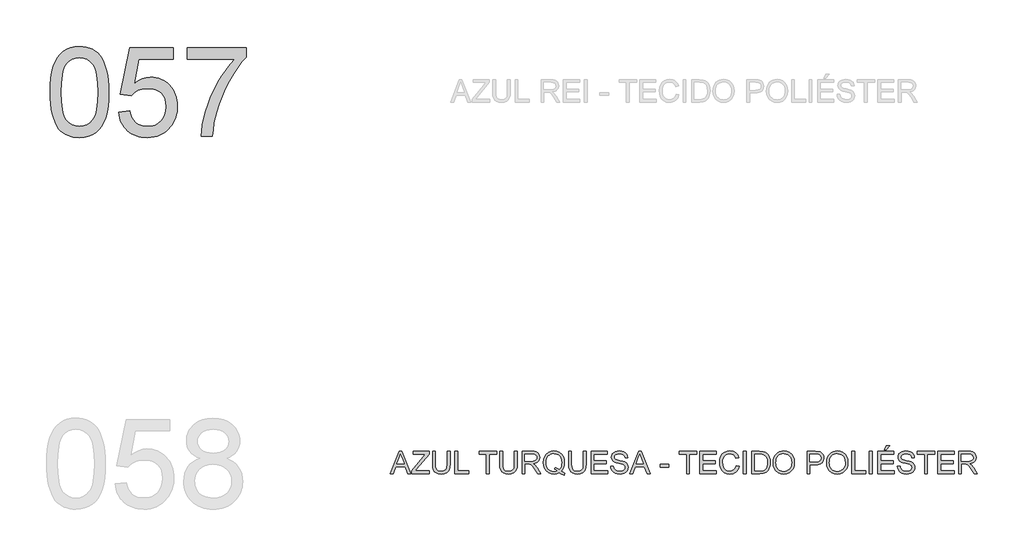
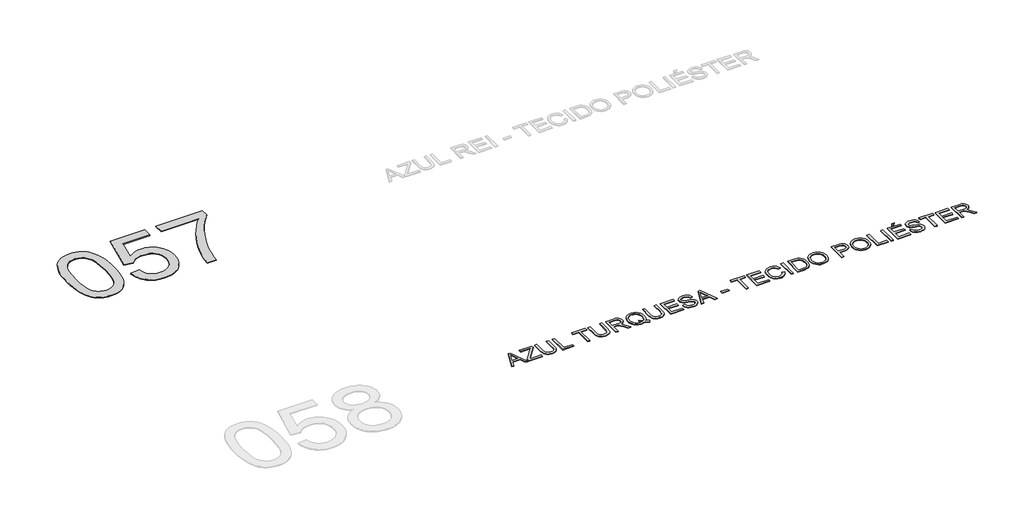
# One storey, part 18 of 39: 2 proxies.
"""IFC4 building model written with IfcOpenShell, lengths in millimetres."""

from ifc_helpers import new_model, si_unit, origin, origin_with_axes, place, context, project, spatial, polyline, outline, extrude, element, save

model = new_model("IFC4")

# Units and contexts
model_context = context("Model", 3, world=origin())
ifc_project = project(units=[si_unit("LENGTHUNIT", "METRE", prefix="MILLI")], contexts=[model_context])

# Site, building, storey
site = spatial("IfcSite", under=ifc_project)
building = spatial("IfcBuilding", under=site)
storey = spatial("IfcBuildingStorey", under=building, Name="Marelli - Linha PROFIT - Planta Baixa", Elevation=0.0)

# Proxies
placement = place(None, origin())
element("IfcBuildingElementProxy", 1, Name="1200mm Arial", ObjectType="1200mm Arial", at=placement, inside=storey, context=model_context, shape_type="SweptSolid", body=[
    extrude(outline(polyline([(-25134.0424838, -64395.792664), (-25131.2741718, -64294.4319773), (-25122.9692358, -64202.8385576), (-25109.1276757, -64121.0124048), (-25089.7494916, -64048.953519), (-25064.9174569, -63986.073289), (-25034.7143451, -63931.7831035), (-24999.1401562, -63886.0829627), (-24958.1948901, -63848.9728664), (-24911.7405912, -63820.2596767), (-24859.6393036, -63799.7502555), (-24801.8910274, -63787.4446027), (-24738.4957626, -63783.3427185), (-24690.8550442, -63785.7707396), (-24645.642347, -63793.0548031), (-24602.857671, -63805.194909), (-24562.5010161, -63822.1910572), (-24525.5472697, -63843.7581391), (-24492.971319, -63869.6110463), (-24464.7731641, -63899.7497788), (-24440.9528049, -63934.1743365), (-24420.314625, -63972.7467637), (-24401.6630078, -64015.3291046), (-24370.3194618, -64112.5235278), (-24358.3449029, -64169.6831928), (-24349.7916465, -64235.9479371), (-24344.6596927, -64311.3177609), (-24342.9490414, -64395.792664), (-24345.6897623, -64496.5095573), (-24353.9119248, -64587.6431245), (-24367.6155292, -64669.1933658), (-24386.8005752, -64741.1602811), (-24411.4394718, -64804.0681023), (-24441.5046279, -64858.4410612), (-24476.9960434, -64904.2791578), (-24517.9137183, -64941.5823921), (-24564.4231995, -64970.4887199), (-24616.690034, -64991.1360968), (-24674.7142217, -65003.524523), (-24738.4957626, -65007.6539984), (-24781.170074, -65005.8605737), (-24821.4899407, -65000.4802995), (-24859.4553626, -64991.5131759), (-24895.0663398, -64978.9592028), (-24928.3228721, -64962.8183803), (-24959.2249597, -64943.0907083), (-24987.7726025, -64919.7761868), (-25013.9658006, -64892.8748159), (-25042.1087732, -64850.2786794), (-25066.4993495, -64802.0999336), (-25087.1375294, -64748.3385785), (-25104.023313, -64688.9946142), (-25117.1567002, -64624.0680406), (-25126.5376911, -64553.5588577), (-25132.1662856, -64477.4670655), (-25134.0424838, -64395.792664)]), holes=[polyline([(-24983.3580186, -64395.4983584), (-24978.9434347, -64526.4919399), (-24965.6996828, -64632.5247279), (-24955.766869, -64676.1808245), (-24943.6267631, -64713.5967226), (-24929.2793653, -64744.7724225), (-24912.7246755, -64769.7079239), (-24875.3478648, -64807.884878), (-24833.8507758, -64835.1541309), (-24788.2334084, -64851.5156826), (-24738.4957626, -64856.9695332), (-24688.7581169, -64851.4972885), (-24643.1407495, -64835.0805545), (-24601.6436604, -64807.7193311), (-24564.2668497, -64769.4136183), (-24547.7121599, -64744.418336), (-24533.3647621, -64713.2104465), (-24521.2246563, -64675.7899498), (-24511.2918424, -64632.1568459), (-24498.0480906, -64526.2528166), (-24493.6335066, -64395.4983584), (-24497.9009378, -64267.9720648), (-24510.7032312, -64163.8062779), (-24520.3049513, -64120.4835744), (-24532.0403869, -64083.0009976), (-24545.9095381, -64051.3585475), (-24561.9124049, -64025.5562241), (-24598.6638162, -63985.5122689), (-24640.6391519, -63956.9094438), (-24687.8384119, -63939.7477487), (-24740.2615962, -63934.0271837), (-24789.7417245, -63939.067167), (-24834.5865397, -63954.187117), (-24874.7960418, -63979.3870337), (-24910.3702308, -64014.666917), (-24927.4767435, -64043.2145599), (-24942.3023879, -64077.2068562), (-24954.847164, -64116.6438061), (-24965.1110716, -64161.5254095), (-24978.7962819, -64267.6225769), (-24983.3580186, -64395.4983584)])]), origin_with_axes(), (0.0, 0.0, 1.0), 10.0),
    extrude(outline(polyline([(-24211.1001343, -64668.6139517), (-24060.4156691, -64649.7783935), (-24049.15848, -64698.2192552), (-24032.7509431, -64740.2405761), (-24011.1930581, -64775.8423562), (-23984.4848253, -64805.0245955), (-23952.6814268, -64827.7505057), (-23915.838045, -64843.9832988), (-23873.9546798, -64853.7229746), (-23827.0313314, -64856.9695332), (-23769.6417401, -64852.4537817), (-23719.0211776, -64838.9065272), (-23675.1696437, -64816.3277698), (-23638.0871386, -64784.7175093), (-23608.6013967, -64745.6392444), (-23587.5401525, -64700.6564734), (-23574.903406, -64649.7691965), (-23570.6911571, -64592.9774135), (-23574.6366915, -64539.3034304), (-23586.4732947, -64491.5891356), (-23606.2009667, -64449.8345291), (-23633.8197075, -64414.039611), (-23669.4214876, -64385.3264213), (-23713.0982775, -64364.817), (-23764.8500771, -64352.5113473), (-23824.6768866, -64348.4094631), (-23862.9642052, -64350.0465379), (-23897.775039, -64354.9577626), (-23929.109388, -64363.143137), (-23956.9672521, -64374.6026611), (-24004.2400884, -64404.6954083), (-24041.5801109, -64442.5872538), (-24192.2645762, -64423.7516957), (-24060.4156691, -63802.1782766), (-23476.5133664, -63802.1782766), (-23476.5133664, -63952.8627418), (-23938.5731523, -63952.8627418), (-24003.0260778, -64284.8394543), (-23949.8487354, -64246.7268796), (-23895.3838061, -64219.503612), (-23839.6312897, -64203.1696514), (-23782.5911863, -64197.7249978), (-23745.1522955, -64199.4126565), (-23709.2079254, -64204.4756324), (-23674.7580758, -64212.9139257), (-23641.8027468, -64224.7275363), (-23610.3419384, -64239.9164642), (-23580.3756506, -64258.4807093), (-23551.9038835, -64280.4202718), (-23524.9266369, -64305.7351516), (-23500.3360248, -64333.7033803), (-23479.024161, -64363.6029895), (-23460.9910454, -64395.4339791), (-23446.2366781, -64429.1963492), (-23434.7610592, -64464.8900998), (-23426.5641885, -64502.5152308), (-23421.646066, -64542.0717424), (-23420.0066919, -64583.5596344), (-23425.9111979, -64661.6241938), (-23433.2918304, -64698.6147284), (-23443.624716, -64734.2440996), (-23456.9098545, -64768.5123075), (-23473.1472461, -64801.4193519), (-23492.3368907, -64832.965233), (-23514.4787883, -64863.1499507), (-23544.479565, -64897.0180869), (-23577.0923038, -64926.3704716), (-23612.3170049, -64951.2071048), (-23650.1536681, -64971.5279865), (-23690.6022934, -64987.3331167), (-23733.662881, -64998.6224954), (-23779.3354307, -65005.3961227), (-23827.6199425, -65007.6539984), (-23905.3809993, -65001.8506599), (-23941.4403326, -64994.5964869), (-23975.6188692, -64984.4406445), (-24007.9166091, -64971.383133), (-24038.3335523, -64955.4239522), (-24066.8696989, -64936.5631021), (-24093.5250487, -64914.8005828), (-24117.8627419, -64890.6422321), (-24139.4459187, -64864.5938875), (-24158.2745791, -64836.6555493), (-24174.348723, -64806.8272173), (-24187.6683505, -64775.1088915), (-24198.2334615, -64741.500572), (-24211.1001343, -64668.6139517)])), origin_with_axes(), (0.0, 0.0, 1.0), 10.0),
    extrude(outline(polyline([(-23288.1577848, -63952.8627418), (-23288.1577848, -63802.1782766), (-22497.0643424, -63802.1782766), (-22497.0643424, -63924.0207934), (-22553.5802139, -63990.5246611), (-22609.8201739, -64066.7222194), (-22665.7842224, -64152.6134682), (-22721.4723595, -64248.1984076), (-22773.8679526, -64349.3383651), (-22819.9543696, -64451.8946683), (-22859.7316103, -64555.8673172), (-22893.1996748, -64661.2563118), (-22913.1388789, -64737.7941609), (-22929.1049575, -64817.9004653), (-22941.0979106, -64901.5752251), (-22949.1177381, -64988.8184403), (-23099.8022033, -64988.8184403), (-23095.0657226, -64914.8189769), (-23083.5050309, -64833.4986619), (-23065.1201282, -64744.8574952), (-23039.9110145, -64648.8954767), (-23008.1719953, -64550.1651463), (-22970.1973764, -64453.2190435), (-22925.9871576, -64358.0571684), (-22875.541339, -64264.679521), (-22821.1315919, -64175.8268221), (-22765.0295877, -64094.2397926), (-22707.2353262, -64019.9184325), (-22647.7488076, -63952.8627418), (-23288.1577848, -63952.8627418)])), origin_with_axes(), (0.0, 0.0, 1.0), 10.0),
])
element("IfcBuildingElementProxy", 2, Name="300mm Arial", ObjectType="300mm Arial", at=placement, inside=storey, context=model_context, shape_type="SweptSolid", body=[
    extrude(outline(polyline([(-20555.6877131, -69530.5663201), (-20435.3903007, -69229.1973896), (-20403.3109907, -69229.1973896), (-20283.0135783, -69530.5663201), (-20322.8184102, -69530.5663201), (-20357.3257413, -69436.3885293), (-20481.4491265, -69436.3885293), (-20515.8828812, -69530.5663201), (-20555.6877131, -69530.5663201)]), holes=[polyline([(-20467.6167635, -69398.717413), (-20371.0845279, -69398.717413), (-20398.2342192, -69324.6259792), (-20419.3506457, -69266.8685059), (-20438.1126275, -69318.1512561), (-20467.6167635, -69398.717413)])]), origin_with_axes(), (0.0, 0.0, 1.0), 10.0),
    extrude(outline(polyline([(-20266.3117357, -69530.5663201), (-20266.3117357, -69491.4972522), (-20112.1691797, -69302.7737887), (-20082.8857729, -69266.8685059), (-20247.4761776, -69266.8685059), (-20247.4761776, -69229.1973896), (-20035.5761483, -69229.1973896), (-20035.5761483, -69266.8685059), (-20204.2868313, -69473.397458), (-20220.1793335, -69492.8952038), (-20030.8672588, -69492.8952038), (-20030.8672588, -69530.5663201), (-20266.3117357, -69530.5663201)])), origin_with_axes(), (0.0, 0.0, 1.0), 10.0),
    extrude(outline(polyline([(-19790.7138923, -69229.1973896), (-19753.042776, -69229.1973896), (-19753.042776, -69403.0584205), (-19755.5995559, -69443.7737604), (-19763.2698955, -69475.1265034), (-19777.5988992, -69499.3147446), (-19800.1316714, -69518.5365788), (-19830.9233944, -69531.0905519), (-19870.0292505, -69535.2752096), (-19908.279781, -69531.6331779), (-19938.8599718, -69520.7070826), (-19961.7790201, -69502.8740029), (-19977.0461229, -69478.5110178), (-19985.6269704, -69445.8338995), (-19988.487253, -69403.0584205), (-19988.487253, -69229.1973896), (-19950.8161366, -69229.1973896), (-19950.8161366, -69401.7340454), (-19948.9583326, -69435.588386), (-19943.3849203, -69459.1604248), (-19933.2865596, -69475.4851883), (-19917.8539099, -69487.597703), (-19897.7307647, -69495.1024957), (-19873.5609177, -69497.6040933), (-19835.2460079, -69492.6560805), (-19820.9032086, -69486.4710644), (-19809.7701797, -69477.812042), (-19801.433054, -69465.6351479), (-19795.4779642, -69448.8965171), (-19790.7138923, -69401.7340454), (-19790.7138923, -69229.1973896)])), origin_with_axes(), (0.0, 0.0, 1.0), 10.0),
    extrude(outline(polyline([(-19687.1183225, -69530.5663201), (-19687.1183225, -69229.1973896), (-19649.4472062, -69229.1973896), (-19649.4472062, -69492.8952038), (-19498.762741, -69492.8952038), (-19498.762741, -69530.5663201), (-19687.1183225, -69530.5663201)])), origin_with_axes(), (0.0, 0.0, 1.0), 10.0),
    extrude(outline(polyline([(-19263.3182641, -69530.5663201), (-19263.3182641, -69266.8685059), (-19362.2049444, -69266.8685059), (-19362.2049444, -69229.1973896), (-19126.7604675, -69229.1973896), (-19126.7604675, -69266.8685059), (-19225.6471478, -69266.8685059), (-19225.6471478, -69530.5663201), (-19263.3182641, -69530.5663201)])), origin_with_axes(), (0.0, 0.0, 1.0), 10.0),
    extrude(outline(polyline([(-18886.607101, -69229.1973896), (-18848.9359847, -69229.1973896), (-18848.9359847, -69403.0584205), (-18851.4927646, -69443.7737604), (-18859.1631042, -69475.1265034), (-18873.4921079, -69499.3147446), (-18896.0248801, -69518.5365788), (-18926.8166031, -69531.0905519), (-18965.9224592, -69535.2752096), (-19004.1729896, -69531.6331779), (-19034.7531805, -69520.7070826), (-19057.6722288, -69502.8740029), (-19072.9393316, -69478.5110178), (-19081.5201791, -69445.8338995), (-19084.3804616, -69403.0584205), (-19084.3804616, -69229.1973896), (-19046.7093453, -69229.1973896), (-19046.7093453, -69401.7340454), (-19044.8515412, -69435.588386), (-19039.278129, -69459.1604248), (-19029.1797682, -69475.4851883), (-19013.7471185, -69487.597703), (-18993.6239734, -69495.1024957), (-18969.4541263, -69497.6040933), (-18931.1392165, -69492.6560805), (-18916.7964172, -69486.4710644), (-18905.6633883, -69477.812042), (-18897.3262626, -69465.6351479), (-18891.3711728, -69448.8965171), (-18886.607101, -69401.7340454), (-18886.607101, -69229.1973896)])), origin_with_axes(), (0.0, 0.0, 1.0), 10.0),
    extrude(outline(polyline([(-18783.0115312, -69530.5663201), (-18783.0115312, -69229.1973896), (-18653.1491869, -69229.1973896), (-18618.2463826, -69231.2299376), (-18592.8533279, -69237.3275817), (-18574.2936812, -69248.5847708), (-18559.8911011, -69266.0959537), (-18550.648066, -69287.8101885), (-18547.5670542, -69311.6765329), (-18552.6714169, -69341.3646099), (-18567.984505, -69365.9759154), (-18579.5842841, -69376.0052983), (-18593.9661709, -69384.0205273), (-18631.0762671, -69394.0085235), (-18609.665535, -69410.1217548), (-18579.1313294, -69448.8965171), (-18528.8786489, -69530.5663201), (-18572.6566063, -69530.5663201), (-18611.872827, -69468.0999573), (-18640.1997406, -69426.750021), (-18660.1021566, -69407.2154871), (-18678.0180097, -69400.0417882), (-18699.8702002, -69398.717413), (-18745.3404149, -69398.717413), (-18745.3404149, -69530.5663201), (-18783.0115312, -69530.5663201)]), holes=[polyline([(-18745.3404149, -69361.0462967), (-18661.0218616, -69361.0462967), (-18636.8060292, -69359.7127245), (-18618.0164563, -69355.7120078), (-18603.8713936, -69348.7774322), (-18593.5890918, -69338.6422832), (-18587.3259009, -69326.3826157), (-18585.2381706, -69313.0744845), (-18589.2204931, -69294.6987789), (-18601.1674609, -69279.8915286), (-18621.7228674, -69270.1242616), (-18651.5305061, -69266.8685059), (-18745.3404149, -69266.8685059), (-18745.3404149, -69361.0462967)])]), origin_with_axes(), (0.0, 0.0, 1.0), 10.0),
    extrude(outline(polyline([(-18255.2480209, -69494.4403081), (-18230.9126269, -69513.036743), (-18208.5270075, -69525.8574305), (-18218.6805506, -69553.4485802), (-18249.748185, -69539.0460001), (-18280.7054549, -69518.205485), (-18315.562274, -69531.0077785), (-18353.913972, -69535.2752096), (-18392.449611, -69530.3547879), (-18427.2696418, -69515.5935229), (-18456.433487, -69491.9203165), (-18478.000569, -69460.2640708), (-18491.3270942, -69422.3630282), (-18495.7692693, -69379.9554312), (-18491.3362913, -69337.511046), (-18478.0373572, -69299.0581805), (-18456.5530486, -69266.9512794), (-18427.5639474, -69243.5447874), (-18392.8726753, -69229.2525719), (-18354.281854, -69224.4885001), (-18315.38753, -69229.3629365), (-18280.5215139, -69243.9862458), (-18251.578398, -69267.3835407), (-18230.4527744, -69298.5799339), (-18217.5401164, -69335.9199564), (-18213.235897, -69377.7481393), (-18215.8478592, -69412.5313819), (-18223.6837457, -69443.5990164), (-18236.7987388, -69470.9142546), (-18255.2480209, -69494.4403081)]), holes=[polyline([(-18343.5396997, -69444.3347804), (-18311.8650599, -69456.3093393), (-18286.2972613, -69472.9559996), (-18270.8140278, -69455.4816049), (-18259.7545753, -69434.1076609), (-18253.1189038, -69408.8341679), (-18250.9070133, -69379.6611256), (-18254.0340103, -69346.5057608), (-18263.4150012, -69317.8201623), (-18278.8200597, -69294.3308969), (-18300.0192597, -69276.7645316), (-18325.5778613, -69265.8108452), (-18354.0611248, -69262.1596164), (-18375.5454333, -69264.0059242), (-18395.1167554, -69269.5448474), (-18412.7750912, -69278.7763863), (-18428.5204406, -69291.7005406), (-18441.4606898, -69308.2897193), (-18450.7037249, -69328.5163313), (-18456.249546, -69352.3803764), (-18458.098153, -69379.8818548), (-18456.2702394, -69406.6659634), (-18450.7864984, -69430.1437324), (-18441.64693, -69450.3151621), (-18428.8515344, -69467.1802523), (-18413.2142503, -69480.4906827), (-18395.5490168, -69489.998133), (-18375.8558337, -69495.7026032), (-18354.1347012, -69497.6040933), (-18333.2206098, -69495.6727128), (-18313.5941053, -69489.8785714), (-18332.889516, -69479.853787), (-18353.2517844, -69473.1767288), (-18343.5396997, -69444.3347804)])]), origin_with_axes(), (0.0, 0.0, 1.0), 10.0),
    extrude(outline(polyline([(-17958.955862, -69229.1973896), (-17921.2847457, -69229.1973896), (-17921.2847457, -69403.0584205), (-17923.8415255, -69443.7737604), (-17931.5118651, -69475.1265034), (-17945.8408688, -69499.3147446), (-17968.373641, -69518.5365788), (-17999.165364, -69531.0905519), (-18038.2712201, -69535.2752096), (-18076.5217506, -69531.6331779), (-18107.1019414, -69520.7070826), (-18130.0209897, -69502.8740029), (-18145.2880925, -69478.5110178), (-18153.8689401, -69445.8338995), (-18156.7292226, -69403.0584205), (-18156.7292226, -69229.1973896), (-18119.0581063, -69229.1973896), (-18119.0581063, -69401.7340454), (-18117.2003022, -69435.588386), (-18111.62689, -69459.1604248), (-18101.5285292, -69475.4851883), (-18086.0958795, -69487.597703), (-18065.9727344, -69495.1024957), (-18041.8028873, -69497.6040933), (-18003.4879775, -69492.6560805), (-17989.1451782, -69486.4710644), (-17978.0121493, -69477.812042), (-17969.6750236, -69465.6351479), (-17963.7199338, -69448.8965171), (-17958.955862, -69401.7340454), (-17958.955862, -69229.1973896)])), origin_with_axes(), (0.0, 0.0, 1.0), 10.0),
    extrude(outline(polyline([(-17855.3602921, -69530.5663201), (-17855.3602921, -69229.1973896), (-17638.7513734, -69229.1973896), (-17638.7513734, -69266.8685059), (-17817.6891758, -69266.8685059), (-17817.6891758, -69356.3374072), (-17648.1691524, -69356.3374072), (-17648.1691524, -69394.0085235), (-17817.6891758, -69394.0085235), (-17817.6891758, -69492.8952038), (-17634.0424838, -69492.8952038), (-17634.0424838, -69530.5663201), (-17855.3602921, -69530.5663201)])), origin_with_axes(), (0.0, 0.0, 1.0), 10.0),
    extrude(outline(polyline([(-17591.662478, -69426.9707502), (-17553.9913617, -69426.9707502), (-17549.6687482, -69447.8756446), (-17541.8512558, -69464.6786547), (-17529.6559677, -69478.0143771), (-17512.199967, -69488.517408), (-17490.8628113, -69495.332422), (-17467.024058, -69497.6040933), (-17446.0363902, -69495.884245), (-17427.6606845, -69490.7247), (-17412.7706608, -69482.5577197), (-17402.2400387, -69471.8155654), (-17395.9768477, -69459.4823216), (-17393.8891174, -69446.5420724), (-17395.4526158, -69433.932917), (-17400.1431113, -69423.0344129), (-17409.671255, -69413.7361954), (-17425.7476982, -69405.9279001), (-17480.5989036, -69391.5437141), (-17516.6053539, -69382.0247675), (-17539.6439639, -69372.9656733), (-17558.3967486, -69360.2921386), (-17571.6864856, -69344.9330653), (-17579.6051456, -69327.2195472), (-17582.2446989, -69307.4826782), (-17578.9797462, -69285.4189555), (-17569.1848881, -69264.845155), (-17553.1176419, -69247.4075484), (-17531.0355252, -69234.7524077), (-17504.5296274, -69227.054477), (-17475.1910383, -69224.4885001), (-17443.4060339, -69227.1740386), (-17415.5941551, -69235.2306543), (-17392.7486832, -69248.4928003), (-17375.8628996, -69266.7949295), (-17365.1759276, -69288.9966079), (-17360.9268906, -69313.9574013), (-17398.5980069, -69313.9574013), (-17405.5141884, -69291.4798114), (-17419.9351626, -69275.2562154), (-17442.4679348, -69265.4337661), (-17473.7195103, -69262.1596164), (-17505.7068498, -69265.3969779), (-17527.6510108, -69275.1090626), (-17540.3429396, -69289.4012781), (-17544.5735826, -69306.3790322), (-17541.5753443, -69320.8551887), (-17532.5806296, -69332.4986539), (-17511.3170502, -69342.9097143), (-17471.07076, -69353.541504), (-17429.5368827, -69363.6398648), (-17404.4105424, -69372.4506385), (-17382.935431, -69386.1174547), (-17367.9534367, -69402.9848441), (-17359.15186, -69422.868866), (-17356.2180011, -69445.5855792), (-17359.5933184, -69468.8081301), (-17369.7192703, -69490.6511236), (-17386.1819896, -69509.4498935), (-17408.567609, -69523.539774), (-17435.487374, -69532.3413507), (-17465.55253, -69535.2752096), (-17502.4602912, -69532.1114244), (-17532.8381469, -69522.620069), (-17557.0355852, -69506.764355), (-17575.4020938, -69484.5074943), (-17587.1927117, -69457.3945912), (-17591.662478, -69426.9707502)])), origin_with_axes(), (0.0, 0.0, 1.0), 10.0),
    extrude(outline(polyline([(-17334.8072689, -69530.5663201), (-17214.5098565, -69229.1973896), (-17182.4305465, -69229.1973896), (-17062.1331341, -69530.5663201), (-17101.937966, -69530.5663201), (-17136.4452971, -69436.3885293), (-17260.5686823, -69436.3885293), (-17295.0024371, -69530.5663201), (-17334.8072689, -69530.5663201)]), holes=[polyline([(-17246.7363193, -69398.717413), (-17150.2040838, -69398.717413), (-17177.353775, -69324.6259792), (-17198.4702015, -69266.8685059), (-17217.2321833, -69318.1512561), (-17246.7363193, -69398.717413)])]), origin_with_axes(), (0.0, 0.0, 1.0), 10.0),
    extrude(outline(polyline([(-16927.7090531, -69441.0974188), (-16927.7090531, -69403.4263025), (-16809.9868146, -69403.4263025), (-16809.9868146, -69441.0974188), (-16927.7090531, -69441.0974188)])), origin_with_axes(), (0.0, 0.0, 1.0), 10.0),
    extrude(outline(polyline([(-16569.8334482, -69530.5663201), (-16569.8334482, -69266.8685059), (-16668.7201285, -69266.8685059), (-16668.7201285, -69229.1973896), (-16433.2756516, -69229.1973896), (-16433.2756516, -69266.8685059), (-16532.1623319, -69266.8685059), (-16532.1623319, -69530.5663201), (-16569.8334482, -69530.5663201)])), origin_with_axes(), (0.0, 0.0, 1.0), 10.0),
    extrude(outline(polyline([(-16390.8956457, -69530.5663201), (-16390.8956457, -69229.1973896), (-16174.286727, -69229.1973896), (-16174.286727, -69266.8685059), (-16353.2245294, -69266.8685059), (-16353.2245294, -69356.3374072), (-16183.704506, -69356.3374072), (-16183.704506, -69394.0085235), (-16353.2245294, -69394.0085235), (-16353.2245294, -69492.8952038), (-16169.5778374, -69492.8952038), (-16169.5778374, -69530.5663201), (-16390.8956457, -69530.5663201)])), origin_with_axes(), (0.0, 0.0, 1.0), 10.0),
    extrude(outline(polyline([(-15901.1711337, -69423.4390831), (-15863.5000174, -69433.1511677), (-15870.9542264, -69456.5783531), (-15880.8824417, -69477.0486868), (-15893.2846635, -69494.5621691), (-15908.1608916, -69509.1187997), (-15925.1754339, -69520.5622291), (-15943.992598, -69528.7361071), (-15964.6123838, -69533.640434), (-15987.0347914, -69535.2752096), (-16030.7299754, -69530.3271968), (-16065.4304446, -69515.4831583), (-16092.0283128, -69491.2581289), (-16111.415694, -69458.1671434), (-16123.2522972, -69419.2636224), (-16127.1978316, -69377.6009865), (-16122.7372624, -69333.6574821), (-16109.3555548, -69295.7104543), (-16087.7516846, -69264.9647166), (-16058.6246277, -69242.6250824), (-16024.0805083, -69229.0226457), (-15986.225451, -69224.4885001), (-15944.9215, -69230.3562179), (-15926.9527638, -69237.6908652), (-15910.7728538, -69247.9593714), (-15896.6484845, -69260.8904235), (-15884.8463702, -69276.2127086), (-15868.208907, -69314.0309777), (-15905.8800233, -69323.0072984), (-15918.9398341, -69295.5357104), (-15936.7821109, -69276.6909552), (-15959.6275828, -69265.7924511), (-15987.696979, -69262.1596164), (-16020.0522005, -69266.1879242), (-16046.6316746, -69278.2728478), (-16066.800805, -69297.1451941), (-16079.9249952, -69321.5357704), (-16087.1262853, -69349.1085259), (-16089.5267153, -69377.5274101), (-16086.6848269, -69412.3290468), (-16078.1591616, -69442.421794), (-16063.6278228, -69466.6560205), (-16042.7689137, -69483.8820949), (-16017.7621351, -69494.1735937), (-15990.7871878, -69497.6040933), (-15959.3424742, -69492.931992), (-15933.1400791, -69478.9156879), (-15913.3572248, -69455.702334), (-15901.1711337, -69423.4390831)])), origin_with_axes(), (0.0, 0.0, 1.0), 10.0),
    extrude(outline(polyline([(-15806.993343, -69530.5663201), (-15806.993343, -69229.1973896), (-15769.3222267, -69229.1973896), (-15769.3222267, -69530.5663201), (-15806.993343, -69530.5663201)])), origin_with_axes(), (0.0, 0.0, 1.0), 10.0),
    extrude(outline(polyline([(-15693.9799941, -69530.5663201), (-15693.9799941, -69229.1973896), (-15590.0165422, -69229.1973896), (-15536.2321945, -69233.5383972), (-15512.2095002, -69241.9077126), (-15491.9392023, -69255.0962821), (-15471.0986873, -69278.0521186), (-15456.2546488, -69306.5997614), (-15447.3702986, -69340.1873876), (-15444.4088485, -69378.2631741), (-15446.4138054, -69410.6091985), (-15452.428676, -69439.0740679), (-15461.5889377, -69463.3082943), (-15473.0300678, -69482.9623899), (-15486.2002432, -69498.477813), (-15500.547641, -69510.2960221), (-15517.0195573, -69519.0608107), (-15536.5632883, -69525.4159721), (-15585.0133471, -69530.5663201), (-15693.9799941, -69530.5663201)]), holes=[polyline([(-15656.3088778, -69492.8952038), (-15589.6486602, -69492.8952038), (-15562.0759047, -69491.5340404), (-15541.1618133, -69487.4505502), (-15525.3796757, -69480.8838566), (-15513.2027816, -69472.0730828), (-15500.1153796, -69455.7667134), (-15490.2837333, -69434.6594839), (-15484.130907, -69408.6594239), (-15482.0799648, -69377.6745629), (-15486.0990756, -69336.6189322), (-15498.156408, -69306.3054558), (-15515.9710936, -69285.4833349), (-15537.2622641, -69272.9017706), (-15558.9305136, -69268.3768221), (-15590.6787298, -69266.8685059), (-15656.3088778, -69266.8685059), (-15656.3088778, -69492.8952038)])]), origin_with_axes(), (0.0, 0.0, 1.0), 10.0),
    extrude(outline(polyline([(-15406.7377322, -69383.8549804), (-15404.2269376, -69348.5061192), (-15396.6945538, -69317.213157), (-15384.1405807, -69289.9760937), (-15366.5650183, -69266.7949295), (-15345.020929, -69248.2858666), (-15320.5613749, -69235.0651074), (-15293.1863559, -69227.1326519), (-15262.8958721, -69224.4885001), (-15223.3669517, -69229.454907), (-15187.9215215, -69244.3541278), (-15158.4909619, -69268.1376988), (-15137.0066534, -69299.7571563), (-15123.8732661, -69337.68579), (-15119.4954704, -69380.3968896), (-15124.1031924, -69423.6782064), (-15137.9263583, -69462.140269), (-15160.2016132, -69493.8149087), (-15190.1656017, -69516.733957), (-15225.3075293, -69530.6398965), (-15263.1166013, -69535.2752096), (-15303.252527, -69530.1524528), (-15338.9002923, -69514.7841825), (-15368.2572755, -69490.5591531), (-15389.5208548, -69458.8661192), (-15402.4335129, -69422.3998164), (-15406.7377322, -69383.8549804)]), holes=[polyline([(-15369.0666159, -69384.2228624), (-15367.18352, -69409.1974513), (-15361.5342321, -69431.3669401), (-15352.1187523, -69450.7313286), (-15338.9370805, -69467.2906169), (-15322.9135204, -69480.5527628), (-15304.9723753, -69490.0257242), (-15285.1136454, -69495.709501), (-15263.3373305, -69497.6040933), (-15241.1885351, -69495.6911069), (-15221.0952804, -69489.9521478), (-15203.0575663, -69480.3872159), (-15187.0753929, -69466.9963113), (-15173.9902902, -69450.0875351), (-15164.6437882, -69429.9689885), (-15159.0358871, -69406.6406715), (-15157.1665867, -69380.102584), (-15160.3671601, -69346.7540812), (-15169.9688801, -69317.9305269), (-15185.7234266, -69294.358488), (-15207.382479, -69276.7645316), (-15233.5112977, -69265.8108452), (-15262.6751429, -69262.1596164), (-15283.6950004, -69263.9185522), (-15303.1973447, -69269.1953595), (-15321.1821757, -69277.9900385), (-15337.6494935, -69290.302589), (-15351.3944846, -69306.7262208), (-15361.2123353, -69327.8541437), (-15367.1030458, -69353.6863575), (-15369.0666159, -69384.2228624)])]), origin_with_axes(), (0.0, 0.0, 1.0), 10.0),
    extrude(outline(polyline([(-14949.975447, -69530.5663201), (-14949.975447, -69229.1973896), (-14838.2864733, -69229.1973896), (-14793.2577171, -69232.0668692), (-14773.1805572, -69237.4287493), (-14756.6534585, -69246.1567496), (-14743.3453274, -69258.6463433), (-14732.9250699, -69275.2930036), (-14726.1928293, -69294.9287051), (-14723.9487492, -69316.3854225), (-14725.4639631, -69334.8852883), (-14730.009605, -69351.9044291), (-14737.5856749, -69367.4428449), (-14748.1921727, -69381.5005356), (-14762.7534019, -69393.1531978), (-14782.1936661, -69401.476528), (-14806.5129652, -69406.470526), (-14835.7112993, -69408.1351921), (-14912.3043307, -69408.1351921), (-14912.3043307, -69530.5663201), (-14949.975447, -69530.5663201)]), holes=[polyline([(-14912.3043307, -69370.4640758), (-14833.5040073, -69370.4640758), (-14800.1003222, -69367.005985), (-14778.0274025, -69356.6317127), (-14765.7217497, -69339.9850525), (-14761.6198655, -69317.7097977), (-14764.0386896, -69300.7872259), (-14771.295162, -69286.5134045), (-14782.4879717, -69275.7712502), (-14796.7158078, -69269.4436799), (-14834.3869241, -69266.8685059), (-14912.3043307, -69266.8685059), (-14912.3043307, -69370.4640758)])]), origin_with_axes(), (0.0, 0.0, 1.0), 10.0),
    extrude(outline(polyline([(-14686.2776329, -69383.8549804), (-14683.7668383, -69348.5061192), (-14676.2344544, -69317.213157), (-14663.6804813, -69289.9760937), (-14646.104919, -69266.7949295), (-14624.5608297, -69248.2858666), (-14600.1012755, -69235.0651074), (-14572.7262565, -69227.1326519), (-14542.4357728, -69224.4885001), (-14502.9068524, -69229.454907), (-14467.4614221, -69244.3541278), (-14438.0308625, -69268.1376988), (-14416.546554, -69299.7571563), (-14403.4131668, -69337.68579), (-14399.035371, -69380.3968896), (-14403.643093, -69423.6782064), (-14417.466259, -69462.140269), (-14439.7415138, -69493.8149087), (-14469.7055023, -69516.733957), (-14504.8474299, -69530.6398965), (-14542.656502, -69535.2752096), (-14582.7924276, -69530.1524528), (-14618.440193, -69514.7841825), (-14647.7971762, -69490.5591531), (-14669.0607555, -69458.8661192), (-14681.9734135, -69422.3998164), (-14686.2776329, -69383.8549804)]), holes=[polyline([(-14648.6065166, -69384.2228624), (-14646.7234206, -69409.1974513), (-14641.0741327, -69431.3669401), (-14631.6586529, -69450.7313286), (-14618.4769812, -69467.2906169), (-14602.453421, -69480.5527628), (-14584.512276, -69490.0257242), (-14564.653546, -69495.709501), (-14542.8772311, -69497.6040933), (-14520.7284358, -69495.6911069), (-14500.6351811, -69489.9521478), (-14482.597467, -69480.3872159), (-14466.6152935, -69466.9963113), (-14453.5301908, -69450.0875351), (-14444.1836889, -69429.9689885), (-14438.5757877, -69406.6406715), (-14436.7064873, -69380.102584), (-14439.9070607, -69346.7540812), (-14449.5087808, -69317.9305269), (-14465.2633272, -69294.358488), (-14486.9223797, -69276.7645316), (-14513.0511984, -69265.8108452), (-14542.2150436, -69262.1596164), (-14563.2349011, -69263.9185522), (-14582.7372453, -69269.1953595), (-14600.7220764, -69277.9900385), (-14617.1893942, -69290.302589), (-14630.9343852, -69306.7262208), (-14640.752236, -69327.8541437), (-14646.6429464, -69353.6863575), (-14648.6065166, -69384.2228624)])]), origin_with_axes(), (0.0, 0.0, 1.0), 10.0),
    extrude(outline(polyline([(-14347.2375861, -69530.5663201), (-14347.2375861, -69229.1973896), (-14309.5664698, -69229.1973896), (-14309.5664698, -69492.8952038), (-14158.8820046, -69492.8952038), (-14158.8820046, -69530.5663201), (-14347.2375861, -69530.5663201)])), origin_with_axes(), (0.0, 0.0, 1.0), 10.0),
    extrude(outline(polyline([(-14111.7931092, -69530.5663201), (-14111.7931092, -69229.1973896), (-14074.1219929, -69229.1973896), (-14074.1219929, -69530.5663201), (-14111.7931092, -69530.5663201)])), origin_with_axes(), (0.0, 0.0, 1.0), 10.0),
    extrude(outline(polyline([(-13998.7797603, -69530.5663201), (-13998.7797603, -69229.1973896), (-13782.1708415, -69229.1973896), (-13782.1708415, -69266.8685059), (-13961.108644, -69266.8685059), (-13961.108644, -69356.3374072), (-13791.5886206, -69356.3374072), (-13791.5886206, -69394.0085235), (-13961.108644, -69394.0085235), (-13961.108644, -69492.8952038), (-13777.461952, -69492.8952038), (-13777.461952, -69530.5663201), (-13998.7797603, -69530.5663201)])), origin_with_axes(), (0.0, 0.0, 1.0), 10.0),
    extrude(outline(polyline([(-13914.0197486, -69210.3618315), (-13885.7664114, -69153.855157), (-13838.677516, -69153.855157), (-13885.7664114, -69210.3618315), (-13914.0197486, -69210.3618315)])), origin_with_axes(), (0.0, 0.0, 1.0), 10.0),
    extrude(outline(polyline([(-13735.0819461, -69426.9707502), (-13697.4108298, -69426.9707502), (-13693.0882164, -69447.8756446), (-13685.270724, -69464.6786547), (-13673.0754359, -69478.0143771), (-13655.6194352, -69488.517408), (-13634.2822795, -69495.332422), (-13610.4435262, -69497.6040933), (-13589.4558583, -69495.884245), (-13571.0801527, -69490.7247), (-13556.1901289, -69482.5577197), (-13545.6595068, -69471.8155654), (-13539.3963159, -69459.4823216), (-13537.3085855, -69446.5420724), (-13538.872084, -69433.932917), (-13543.5625795, -69423.0344129), (-13553.0907231, -69413.7361954), (-13569.1671663, -69405.9279001), (-13624.0183718, -69391.5437141), (-13660.0248221, -69382.0247675), (-13683.063432, -69372.9656733), (-13701.8162167, -69360.2921386), (-13715.1059538, -69344.9330653), (-13723.0246137, -69327.2195472), (-13725.6641671, -69307.4826782), (-13722.3992144, -69285.4189555), (-13712.6043562, -69264.845155), (-13696.5371101, -69247.4075484), (-13674.4549933, -69234.7524077), (-13647.9490956, -69227.054477), (-13618.6105065, -69224.4885001), (-13586.8255021, -69227.1740386), (-13559.0136232, -69235.2306543), (-13536.1681513, -69248.4928003), (-13519.2823678, -69266.7949295), (-13508.5953958, -69288.9966079), (-13504.3463588, -69313.9574013), (-13542.0174751, -69313.9574013), (-13548.9336566, -69291.4798114), (-13563.3546308, -69275.2562154), (-13585.887403, -69265.4337661), (-13617.1389785, -69262.1596164), (-13649.126318, -69265.3969779), (-13671.070479, -69275.1090626), (-13683.7624078, -69289.4012781), (-13687.9930508, -69306.3790322), (-13684.9948125, -69320.8551887), (-13676.0000977, -69332.4986539), (-13654.7365184, -69342.9097143), (-13614.4902281, -69353.541504), (-13572.9563509, -69363.6398648), (-13547.8300106, -69372.4506385), (-13526.3548991, -69386.1174547), (-13511.3729049, -69402.9848441), (-13502.5713281, -69422.868866), (-13499.6374692, -69445.5855792), (-13503.0127865, -69468.8081301), (-13513.1387384, -69490.6511236), (-13529.6014577, -69509.4498935), (-13551.9870771, -69523.539774), (-13578.9068421, -69532.3413507), (-13608.9719982, -69535.2752096), (-13645.8797594, -69532.1114244), (-13676.2576151, -69522.620069), (-13700.4550533, -69506.764355), (-13718.821562, -69484.5074943), (-13730.6121799, -69457.3945912), (-13735.0819461, -69426.9707502)])), origin_with_axes(), (0.0, 0.0, 1.0), 10.0),
    extrude(outline(polyline([(-13367.7885622, -69530.5663201), (-13367.7885622, -69266.8685059), (-13466.6752425, -69266.8685059), (-13466.6752425, -69229.1973896), (-13231.2307655, -69229.1973896), (-13231.2307655, -69266.8685059), (-13330.1174458, -69266.8685059), (-13330.1174458, -69530.5663201), (-13367.7885622, -69530.5663201)])), origin_with_axes(), (0.0, 0.0, 1.0), 10.0),
    extrude(outline(polyline([(-13188.8507597, -69530.5663201), (-13188.8507597, -69229.1973896), (-12972.2418409, -69229.1973896), (-12972.2418409, -69266.8685059), (-13151.1796434, -69266.8685059), (-13151.1796434, -69356.3374072), (-12981.65962, -69356.3374072), (-12981.65962, -69394.0085235), (-13151.1796434, -69394.0085235), (-13151.1796434, -69492.8952038), (-12967.5329514, -69492.8952038), (-12967.5329514, -69530.5663201), (-13188.8507597, -69530.5663201)])), origin_with_axes(), (0.0, 0.0, 1.0), 10.0),
    extrude(outline(polyline([(-12911.0262769, -69530.5663201), (-12911.0262769, -69229.1973896), (-12781.1639326, -69229.1973896), (-12746.2611284, -69231.2299376), (-12720.8680736, -69237.3275817), (-12702.308427, -69248.5847708), (-12687.9058469, -69266.0959537), (-12678.6628117, -69287.8101885), (-12675.5818, -69311.6765329), (-12680.6861627, -69341.3646099), (-12695.9992508, -69365.9759154), (-12707.5990299, -69376.0052983), (-12721.9809167, -69384.0205273), (-12759.0910129, -69394.0085235), (-12737.6802808, -69410.1217548), (-12707.1460752, -69448.8965171), (-12656.8933947, -69530.5663201), (-12700.6713521, -69530.5663201), (-12739.8875728, -69468.0999573), (-12768.2144864, -69426.750021), (-12788.1169024, -69407.2154871), (-12806.0327555, -69400.0417882), (-12827.884946, -69398.717413), (-12873.3551606, -69398.717413), (-12873.3551606, -69530.5663201), (-12911.0262769, -69530.5663201)]), holes=[polyline([(-12873.3551606, -69361.0462967), (-12789.0366073, -69361.0462967), (-12764.820775, -69359.7127245), (-12746.0312021, -69355.7120078), (-12731.8861394, -69348.7774322), (-12721.6038376, -69338.6422832), (-12715.3406467, -69326.3826157), (-12713.2529163, -69313.0744845), (-12717.2352389, -69294.6987789), (-12729.1822067, -69279.8915286), (-12749.7376132, -69270.1242616), (-12779.5452519, -69266.8685059), (-12873.3551606, -69266.8685059), (-12873.3551606, -69361.0462967)])]), origin_with_axes(), (0.0, 0.0, 1.0), 10.0),
])

save(model, "model.ifc")
